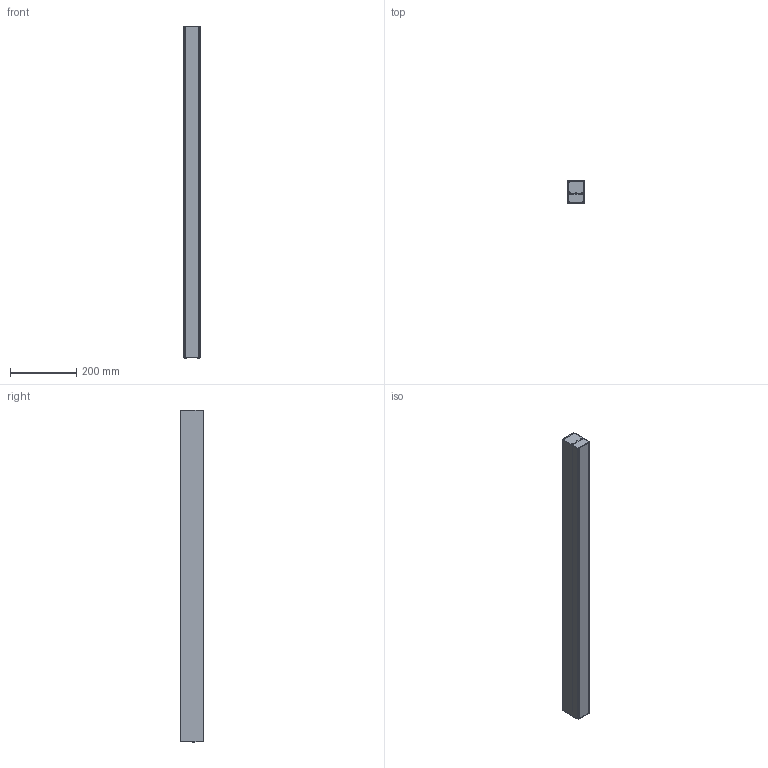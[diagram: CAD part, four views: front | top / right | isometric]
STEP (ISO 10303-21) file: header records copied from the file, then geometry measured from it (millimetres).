
FILE_DESCRIPTION(('STEP AP203'), '1');
FILE_NAME('MIKKO NORMI', '', ('UNSPECIFIED'), ('UNSPECIFIED'), 'ASCON STEP Converter 1.6', 'ASCON Math Kernel', '');
FILE_SCHEMA(('CONFIG_CONTROL_DESIGN'));
Length unit declared in the file: millimetre
Assembly tree (4 placements, depth 2):
  (unnamed)
    (unnamed)  x4
Bounding box: 50 x 70 x 1002.3 mm (x, y, z)
Volume: 440973.6 mm3; surface area: 679649.2 mm2
Topology: 9 solids, 9 shells, 336 faces, 925 edges, 620 vertices
Faces by surface type: plane 160, cylinder 138, bspline 16, cone 12, torus 10
Full cylindrical faces by diameter (mm): 2.9 x4, 6.3 x4, 8 x1, 10 x2, 14 x2
Entity records: 10794 total; most frequent: CARTESIAN_POINT 1709, DIRECTION 1524, ORIENTED_EDGE 1442, EDGE_CURVE 721, AXIS2_PLACEMENT_3D 547, VERTEX_POINT 489, LINE 430, VECTOR 430
